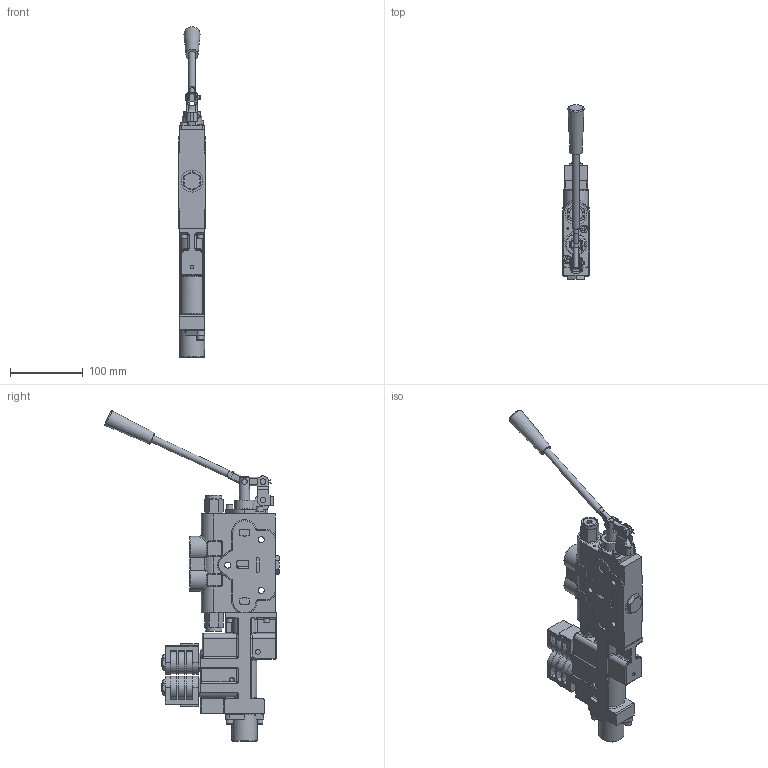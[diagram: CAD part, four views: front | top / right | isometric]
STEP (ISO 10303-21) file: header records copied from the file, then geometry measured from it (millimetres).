
FILE_DESCRIPTION(/* description */ ('','CAx-IF Rec.Pracs.---Representation and Presentation of Product Manufacturing Information (PMI)---3.8---2014-02-18'),/* implementation_level */ '2;1');
FILE_NAME(/* name */ 'C:\Vault\Workspace\RefDataValves\SolidModelShells\WebSolidModelShells\New2017\SVH1xA1CC-Cxxx.stp',/* time_stamp */ '2017-05-15T10:59:47-05:00',/* author */ ('PetersW'),/* organization */ ('Prince Manufacturing Corporation'),/* preprocessor_version */ 'ST-DEVELOPER v16.1',/* originating_system */ 'Autodesk Inventor 2016',/* authorisation */ '');
FILE_SCHEMA (('AP242_MANAGED_MODEL_BASED_3D_ENGINEERING_MIM_LF { 1 0 10303 442 1 1 4 }'));
Products named in the file (1): Part10
Bounding box: 36.61 x 239.54 x 453.74 mm (x, y, z)
Volume: 1016490.6 mm3; surface area: 176238 mm2
Topology: 9 solids, 45 shells, 1782 faces, 4422 edges, 2744 vertices
Faces by surface type: plane 822, cylinder 450, bspline 204, cone 163, torus 116, sphere 27
Full cylindrical faces by diameter (mm): 2.381 x1, 2.388 x2, 2.667 x1, 3.861 x2, 4.661 x3, 4.75 x4, 4.801 x2, 4.826 x7, 4.978 x7, 5.004 x6, 5.207 x4, 6.096 x1, 6.35 x6, 6.401 x2, 6.731 x6, 7.798 x1, 7.925 x7, 8.331 x3, 8.763 x2, 9.525 x5, 9.779 x2, 9.931 x1, 10.998 x2, 11.125 x1, 12.548 x2, 12.675 x2, 12.7 x2, 12.763 x1, 13.005 x2, 14.275 x1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
Entity records: 57196 total; most frequent: CARTESIAN_POINT 15674, ORIENTED_EDGE 8058, DIRECTION 8032, EDGE_CURVE 4025, AXIS2_PLACEMENT_3D 2986, VERTEX_POINT 2629, EDGE_LOOP 2168, LINE 2060
